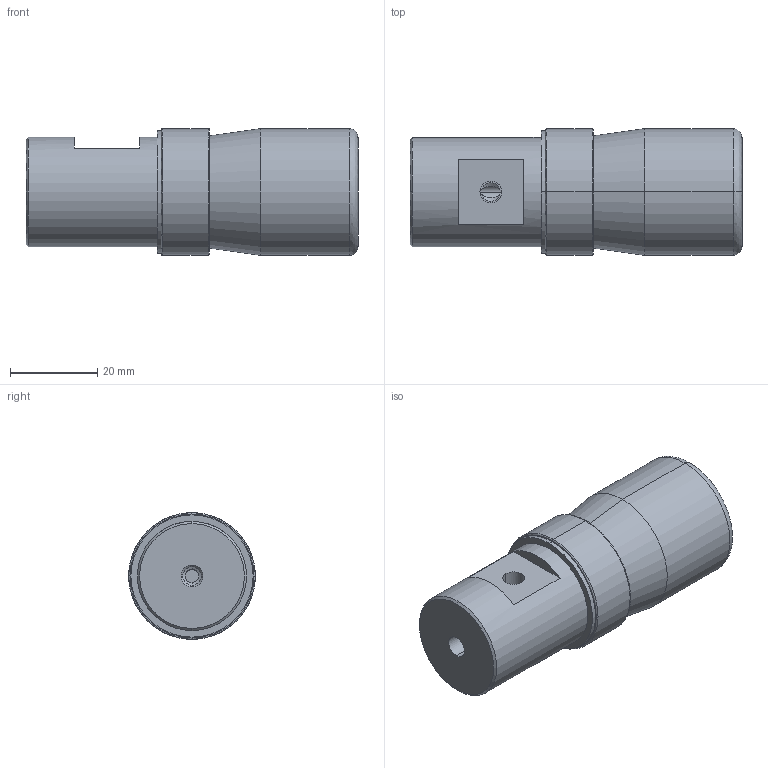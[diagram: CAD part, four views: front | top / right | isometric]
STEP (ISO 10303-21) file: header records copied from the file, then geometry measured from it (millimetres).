
FILE_DESCRIPTION( (''), '2;1');
FILE_NAME ('TGMX25.1684.RBP025RCA_22962.stp','2015-03-30T15:11:14',(''),(''),'spGate 11.3.7','spGate','');
FILE_SCHEMA (('AUTOMOTIVE_DESIGN'));
Length unit declared in the file: millimetre
Bounding box: 76 x 29 x 29 mm (x, y, z)
Volume: 41295.6 mm3; surface area: 8854.8 mm2
Topology: 1 solids, 1 shells, 48 faces, 105 edges, 65 vertices
Faces by surface type: bspline 18, cylinder 18, plane 12
Entity records: 2449 total; most frequent: CARTESIAN_POINT 595, ORIENTED_EDGE 210, DIRECTION 186, COLOUR_RGB 154, PRESENTATION_STYLE_ASSIGNMENT 154, STYLED_ITEM 154, EDGE_CURVE 105, DRAUGHTING_PRE_DEFINED_CURVE_FONT 105
